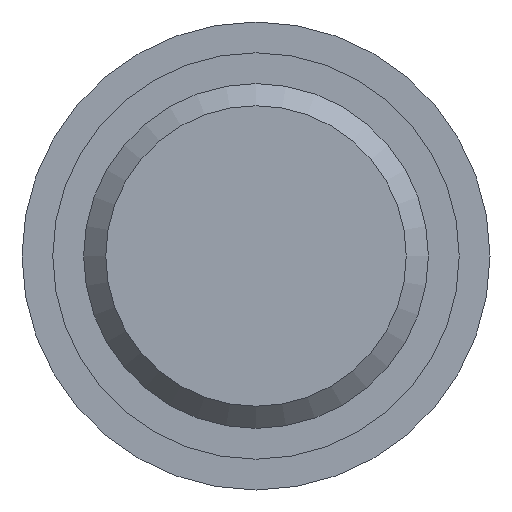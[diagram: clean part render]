
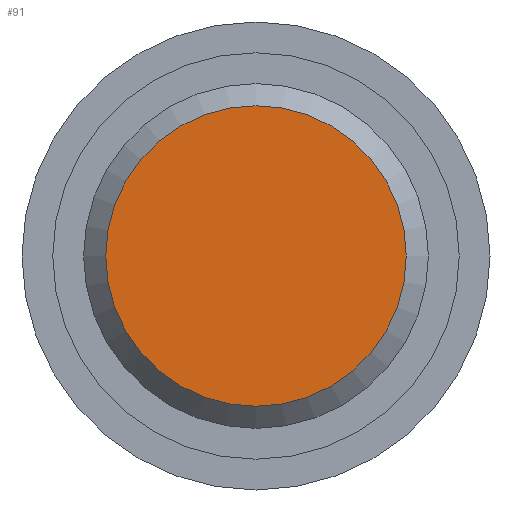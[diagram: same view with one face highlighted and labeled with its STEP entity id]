
A CAD part, front view. The second image highlights one B-rep face of the part: STEP entity #91.
In plain terms, the highlighted planar face has unit normal (0, -1, 0).
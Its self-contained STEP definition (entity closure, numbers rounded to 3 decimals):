
#91 = ADVANCED_FACE( '', ( #138 ), #139, .F. );
#138 = FACE_OUTER_BOUND( '', #193, .T. );
#139 = PLANE( '', #194 );
#193 = EDGE_LOOP( '', ( #308 ) );
#194 = AXIS2_PLACEMENT_3D( '', #309, #310, #311 );
#308 = ORIENTED_EDGE( '', *, *, #359, .T. );
#309 = CARTESIAN_POINT( '', ( 6.1, 0., 0. ) );
#310 = DIRECTION( '', ( 0., 1., 0. ) );
#311 = DIRECTION( '', ( 0., 0., 1. ) );
#359 = EDGE_CURVE( '', #411, #411, #412, .T. );
#411 = VERTEX_POINT( '', #485 );
#412 = CIRCLE( '', #486, 6.1 );
#485 = CARTESIAN_POINT( '', ( 0., 0., -6.1 ) );
#486 = AXIS2_PLACEMENT_3D( '', #538, #539, #540 );
#538 = CARTESIAN_POINT( '', ( 0., 0., 0. ) );
#539 = DIRECTION( '', ( 0., -1., 0. ) );
#540 = DIRECTION( '', ( 0., 0., -1. ) );
